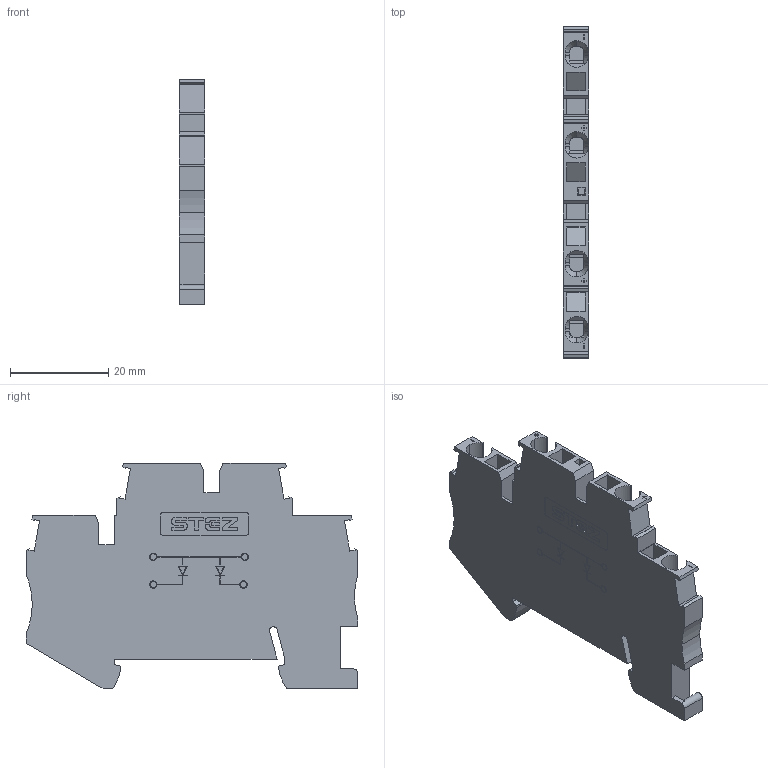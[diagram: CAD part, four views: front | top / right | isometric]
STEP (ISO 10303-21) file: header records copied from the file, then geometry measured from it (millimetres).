
FILE_DESCRIPTION(('TFLEX Exchange Step'),'2;1');
FILE_NAME('10200075 КНЗ 2,5-2-Д В-НЛ В-НП.stp', '2024-02-27T16:50:55+03:00',('APolyakov'),('Unknown organisation'),'TFLEX Exchange 2023.2','T-FLEX CAD','Unknown authorisation');
FILE_SCHEMA( ('AUTOMOTIVE_DESIGN { 1 0 10303 214 1 1 1 1 }') );
Length unit declared in the file: millimetre
Products named in the file (1): Тело_1:1
Bounding box: 5.15 x 67.55 x 45.85 mm (x, y, z)
Volume: 10419 mm3; surface area: 7664.4 mm2
Topology: 1 solids, 1 shells, 537 faces, 1520 edges, 1008 vertices
Faces by surface type: plane 303, cylinder 218, cone 16
Entity records: 18547 total; most frequent: CARTESIAN_POINT 4319, ORIENTED_EDGE 3040, DIRECTION 2940, EDGE_CURVE 1520, VERTEX_POINT 1008, VECTOR 998, LINE 998, AXIS2_PLACEMENT_3D 971
